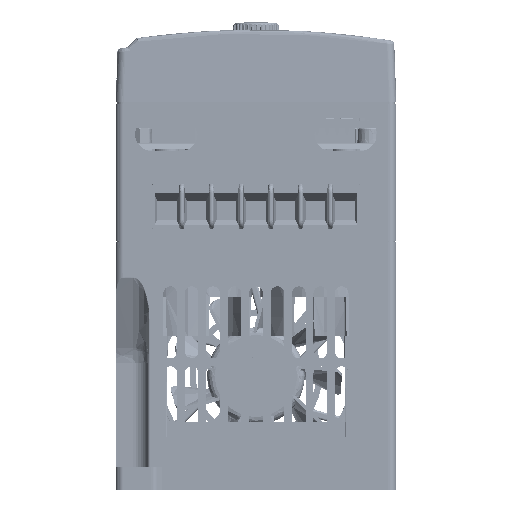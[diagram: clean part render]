
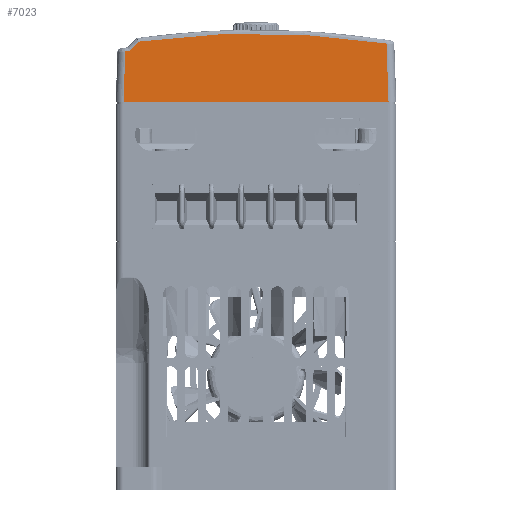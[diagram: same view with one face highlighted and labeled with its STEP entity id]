
A CAD part, front view. The second image highlights one B-rep face of the part: STEP entity #7023.
In plain terms, the highlighted planar face has unit normal (0, -0.999, 0.035) as drawn and (0, 0.035, 0.999) by its records, which use the part's own axes.
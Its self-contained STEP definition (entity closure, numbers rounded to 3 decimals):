
#974 = LINE ( 'NONE', #151811, #203548 ) ;
#2223 = VERTEX_POINT ( 'NONE', #82264 ) ;
#7023 = ADVANCED_FACE ( 'NONE', ( #125547 ), #13040, .T. ) ;
#7649 = VERTEX_POINT ( 'NONE', #221735 ) ;
#10533 = VERTEX_POINT ( 'NONE', #229595 ) ;
#13040 = PLANE ( 'NONE',  #198083 ) ;
#19842 = DIRECTION ( 'NONE',  ( 1., 0., 0. ) ) ;
#20665 = CARTESIAN_POINT ( 'NONE',  ( -33.547, 112.52, 70.545 ) ) ;
#25023 = VERTEX_POINT ( 'NONE', #104813 ) ;
#36203 = CARTESIAN_POINT ( 'NONE',  ( 7.521, 117.134, 70.384 ) ) ;
#39862 = CARTESIAN_POINT ( 'NONE',  ( 20.517, 116.3, 70.413 ) ) ;
#40877 = ORIENTED_EDGE ( 'NONE', *, *, #133959, .F. ) ;
#47627 = ORIENTED_EDGE ( 'NONE', *, *, #177567, .T. ) ;
#55260 = CARTESIAN_POINT ( 'NONE',  ( 34.001, 99.5, 71. ) ) ;
#57551 = LINE ( 'NONE', #193558, #87001 ) ;
#58742 = DIRECTION ( 'NONE',  ( -0.035, 0.999, -0.035 ) ) ;
#64078 = EDGE_CURVE ( 'NONE', #185493, #7649, #75084, .T. ) ;
#73850 = ORIENTED_EDGE ( 'NONE', *, *, #235530, .T. ) ;
#75084 = LINE ( 'NONE', #20665, #130022 ) ;
#82264 = CARTESIAN_POINT ( 'NONE',  ( -32.47, 112.686, 70.54 ) ) ;
#87001 = VECTOR ( 'NONE', #192362, 1000. ) ;
#91337 =( BOUNDED_CURVE ( )  B_SPLINE_CURVE ( 3, ( #242775, #224251, #130175, #95527, #36203, #39862, #131402, #111639 ),
 .UNSPECIFIED., .F., .F. ) 
 B_SPLINE_CURVE_WITH_KNOTS ( ( 4, 1, 1, 1, 1, 4 ),
 ( 0., 0.187, 0.388, 0.59, 0.795, 1. ),
 .UNSPECIFIED. ) 
 CURVE ( )  GEOMETRIC_REPRESENTATION_ITEM ( )  RATIONAL_B_SPLINE_CURVE ( ( 1.163, 1.163, 1.163, 1.163, 1.163, 1.163, 1.163, 1.163 ) ) 
 REPRESENTATION_ITEM ( '' )  );
#92846 = LINE ( 'NONE', #205400, #153533 ) ;
#95527 = CARTESIAN_POINT ( 'NONE',  ( -5.407, 117.194, 70.382 ) ) ;
#101277 = ORIENTED_EDGE ( 'NONE', *, *, #142289, .T. ) ;
#104813 = CARTESIAN_POINT ( 'NONE',  ( -30.1, 115.052, 70.457 ) ) ;
#108900 = CARTESIAN_POINT ( 'NONE',  ( -33.547, 112.52, 70.545 ) ) ;
#111639 = CARTESIAN_POINT ( 'NONE',  ( 33.475, 114.555, 70.474 ) ) ;
#112201 = DIRECTION ( 'NONE',  ( -0.035, -0.999, 0.035 ) ) ;
#125547 = FACE_OUTER_BOUND ( 'NONE', #151331, .T. ) ;
#130022 = VECTOR ( 'NONE', #112201, 1000. ) ;
#130175 = CARTESIAN_POINT ( 'NONE',  ( -17.951, 116.514, 70.406 ) ) ;
#131402 = CARTESIAN_POINT ( 'NONE',  ( 29.165, 115.224, 70.451 ) ) ;
#133959 = EDGE_CURVE ( 'NONE', #25023, #10533, #91337, .T. ) ;
#142289 = EDGE_CURVE ( 'NONE', #2223, #185493, #974, .T. ) ;
#142473 = EDGE_CURVE ( 'NONE', #155177, #10533, #173737, .T. ) ;
#151331 = EDGE_LOOP ( 'NONE', ( #185217, #47627, #193916, #40877, #73850, #101277 ) ) ;
#151811 = CARTESIAN_POINT ( 'NONE',  ( -32.47, 112.686, 70.54 ) ) ;
#153533 = VECTOR ( 'NONE', #19842, 1000. ) ;
#153933 = CARTESIAN_POINT ( 'NONE',  ( 34.001, 99.5, 71. ) ) ;
#155177 = VERTEX_POINT ( 'NONE', #55260 ) ;
#173737 = LINE ( 'NONE', #153933, #235131 ) ;
#177567 = EDGE_CURVE ( 'NONE', #7649, #155177, #92846, .T. ) ;
#185217 = ORIENTED_EDGE ( 'NONE', *, *, #64078, .T. ) ;
#185493 = VERTEX_POINT ( 'NONE', #108900 ) ;
#192362 = DIRECTION ( 'NONE',  ( -0.708, -0.706, 0.025 ) ) ;
#193558 = CARTESIAN_POINT ( 'NONE',  ( -30.1, 115.052, 70.457 ) ) ;
#193916 = ORIENTED_EDGE ( 'NONE', *, *, #142473, .T. ) ;
#194046 = DIRECTION ( 'NONE',  ( 0., -0.999, 0.035 ) ) ;
#198083 = AXIS2_PLACEMENT_3D ( 'NONE', #240577, #202275, #194046 ) ;
#202275 = DIRECTION ( 'NONE',  ( 0., 0.035, 0.999 ) ) ;
#203548 = VECTOR ( 'NONE', #208763, 1000. ) ;
#205400 = CARTESIAN_POINT ( 'NONE',  ( 38.2, 99.5, 71. ) ) ;
#208763 = DIRECTION ( 'NONE',  ( -0.988, -0.152, 0.005 ) ) ;
#221735 = CARTESIAN_POINT ( 'NONE',  ( -34.001, 99.5, 71. ) ) ;
#224251 = CARTESIAN_POINT ( 'NONE',  ( -26.153, 115.601, 70.438 ) ) ;
#229595 = CARTESIAN_POINT ( 'NONE',  ( 33.475, 114.555, 70.474 ) ) ;
#235131 = VECTOR ( 'NONE', #58742, 1000. ) ;
#235530 = EDGE_CURVE ( 'NONE', #25023, #2223, #57551, .T. ) ;
#240577 = CARTESIAN_POINT ( 'NONE',  ( 38.2, 99.5, 71. ) ) ;
#242775 = CARTESIAN_POINT ( 'NONE',  ( -30.1, 115.052, 70.457 ) ) ;
